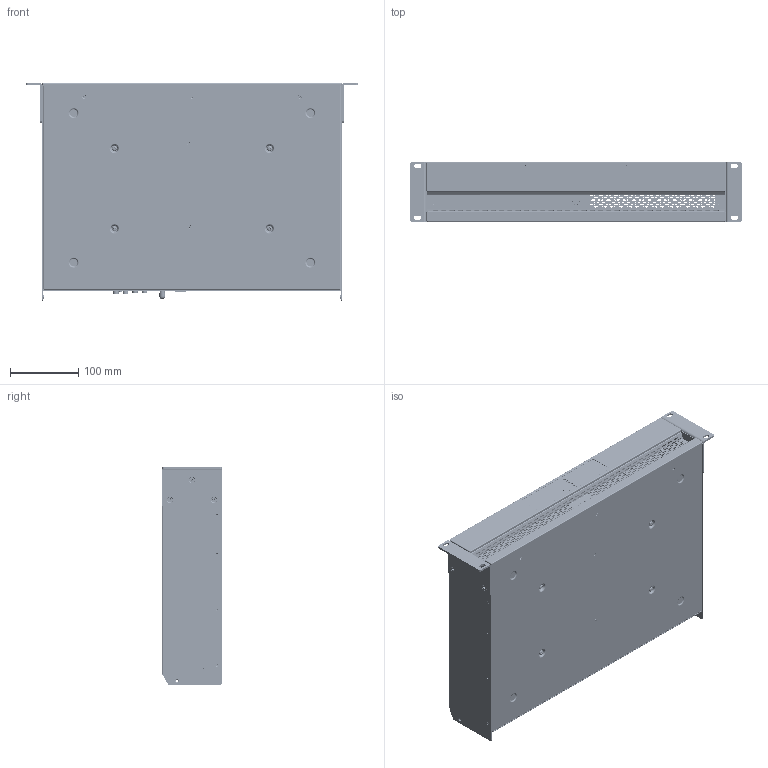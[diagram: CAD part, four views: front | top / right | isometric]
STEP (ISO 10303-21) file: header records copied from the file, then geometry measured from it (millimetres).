
FILE_DESCRIPTION (( 'STEP AP214' ), '1' );
FILE_NAME ('Sonance PowerZone Connect PRO 2000.2D Assembly.STEP', '2026-06-01T19:34:26', ( '' ), ( '' ), 'SwSTEP 2.0', 'SolidWorks 2025', '' );
FILE_SCHEMA (( 'AUTOMOTIVE_DESIGN' ));
Length unit declared in the file: millimetre
Products named in the file (1): Sonance PowerZone Connect PRO 2000.2D Assembly
Bounding box: 488 x 88.05 x 320 mm (x, y, z)
Volume: 597611.2 mm3; surface area: 949857.4 mm2
Topology: 169 solids, 169 shells, 11804 faces, 30328 edges, 19290 vertices
Faces by surface type: plane 6168, cylinder 3405, cone 1549, torus 373, bspline 244, sphere 65
Entity records: 373968 total; most frequent: CARTESIAN_POINT 78940, DIRECTION 60837, ORIENTED_EDGE 60352, EDGE_CURVE 30176, AXIS2_PLACEMENT_3D 20534, LINE 19769, VECTOR 19769, VERTEX_POINT 19283
